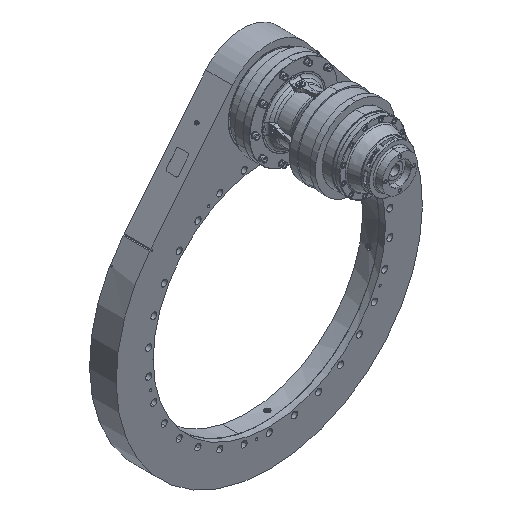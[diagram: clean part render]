
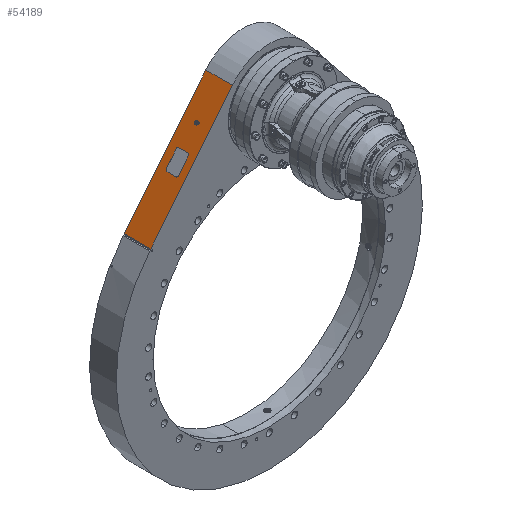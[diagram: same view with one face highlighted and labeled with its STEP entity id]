
A CAD part, isometric view. The second image highlights one B-rep face of the part: STEP entity #54189.
In plain terms, the highlighted planar face has unit normal (-0.777, 0, 0.629).
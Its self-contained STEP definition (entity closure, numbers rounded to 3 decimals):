
#8298=DIRECTION('',(0.629,0.,0.777));
#8299=VECTOR('',#8298,478.975);
#8300=CARTESIAN_POINT('',(-437.332,0.,357.735));
#8301=LINE('',#8300,#8299);
#9044=DIRECTION('',(0.629,0.,0.777));
#9045=VECTOR('',#9044,478.975);
#9046=CARTESIAN_POINT('',(-437.332,98.,357.735));
#9047=LINE('',#9046,#9045);
#18446=DIRECTION('',(0.,1.,0.));
#18447=VECTOR('',#18446,98.);
#18448=CARTESIAN_POINT('',(-136.041,0.,730.081));
#18449=LINE('',#18448,#18447);
#18453=DIRECTION('',(0.,-1.,0.));
#18454=VECTOR('',#18453,98.);
#18455=CARTESIAN_POINT('',(-437.332,98.,357.735));
#18456=LINE('',#18455,#18454);
#18460=DIRECTION('',(0.145,0.973,0.179));
#18461=VECTOR('',#18460,6.351);
#18462=CARTESIAN_POINT('',(-216.151,41.644,
631.078));
#18463=LINE('',#18462,#18461);
#18467=DIRECTION('',(-0.458,0.686,-0.566));
#18468=VECTOR('',#18467,6.351);
#18469=CARTESIAN_POINT('',(-215.231,47.824,
632.215));
#18470=LINE('',#18469,#18468);
#18474=DIRECTION('',(-0.603,-0.287,-0.745));
#18475=VECTOR('',#18474,6.351);
#18476=CARTESIAN_POINT('',(-218.138,52.18,
628.622));
#18477=LINE('',#18476,#18475);
#18481=DIRECTION('',(-0.145,-0.973,-0.179));
#18482=VECTOR('',#18481,6.351);
#18483=CARTESIAN_POINT('',(-221.965,50.356,
623.893));
#18484=LINE('',#18483,#18482);
#18488=DIRECTION('',(0.458,-0.686,0.566));
#18489=VECTOR('',#18488,6.351);
#18490=CARTESIAN_POINT('',(-222.885,44.176,
622.757));
#18491=LINE('',#18490,#18489);
#18495=DIRECTION('',(0.603,0.287,0.745));
#18496=VECTOR('',#18495,6.351);
#18497=CARTESIAN_POINT('',(-219.978,39.82,
626.349));
#18498=LINE('',#18497,#18496);
#18502=CARTESIAN_POINT('',(-309.639,64.,515.543));
#18503=DIRECTION('',(-0.777,0.,0.629));
#18504=DIRECTION('',(0.,1.,0.));
#18505=AXIS2_PLACEMENT_3D('',#18502,#18503,#18504);
#18510=DIRECTION('',(0.,1.,0.));
#18511=VECTOR('',#18510,33.);
#18512=CARTESIAN_POINT('',(-313.413,31.,510.879));
#18513=LINE('',#18512,#18511);
#18517=CARTESIAN_POINT('',(-309.639,31.,515.543));
#18518=DIRECTION('',(-0.777,0.,0.629));
#18519=DIRECTION('',(-0.629,0.,
-0.777));
#18520=AXIS2_PLACEMENT_3D('',#18517,#18518,#18519);
#18525=DIRECTION('',(-0.629,0.,-0.777));
#18526=VECTOR('',#18525,58.);
#18527=CARTESIAN_POINT('',(-273.155,25.,560.631));
#18528=LINE('',#18527,#18526);
#18532=CARTESIAN_POINT('',(-273.155,31.,560.631));
#18533=DIRECTION('',(-0.777,0.,0.629));
#18534=DIRECTION('',(0.,-1.,0.));
#18535=AXIS2_PLACEMENT_3D('',#18532,#18533,#18534);
#18540=DIRECTION('',(0.,-1.,0.));
#18541=VECTOR('',#18540,33.);
#18542=CARTESIAN_POINT('',(-269.381,64.,565.296));
#18543=LINE('',#18542,#18541);
#18547=CARTESIAN_POINT('',(-273.155,64.,560.631));
#18548=DIRECTION('',(-0.777,0.,0.629));
#18549=DIRECTION('',(0.629,0.,0.777));
#18550=AXIS2_PLACEMENT_3D('',#18547,#18548,#18549);
#18555=DIRECTION('',(0.629,0.,0.777));
#18556=VECTOR('',#18555,58.);
#18557=CARTESIAN_POINT('',(-309.639,70.,515.543));
#18558=LINE('',#18557,#18556);
#28655=CARTESIAN_POINT('',(-136.041,0.,730.081));
#28657=VERTEX_POINT('',#28655);
#28659=CARTESIAN_POINT('',(-136.041,98.,730.081));
#28661=VERTEX_POINT('',#28659);
#28667=CARTESIAN_POINT('',(-437.332,98.,357.735));
#28668=CARTESIAN_POINT('',(-437.332,0.,357.735));
#28669=VERTEX_POINT('',#28667);
#28670=VERTEX_POINT('',#28668);
#30181=CARTESIAN_POINT('',(-216.151,41.644,
631.078));
#30182=CARTESIAN_POINT('',(-215.231,47.824,
632.215));
#30183=VERTEX_POINT('',#30181);
#30184=VERTEX_POINT('',#30182);
#30185=CARTESIAN_POINT('',(-222.885,44.176,
622.757));
#30186=CARTESIAN_POINT('',(-219.978,39.82,
626.349));
#30187=VERTEX_POINT('',#30185);
#30188=VERTEX_POINT('',#30186);
#30189=CARTESIAN_POINT('',(-218.138,52.18,
628.622));
#30190=CARTESIAN_POINT('',(-221.965,50.356,
623.893));
#30191=VERTEX_POINT('',#30189);
#30192=VERTEX_POINT('',#30190);
#30225=CARTESIAN_POINT('',(-309.639,70.,515.543));
#30226=CARTESIAN_POINT('',(-313.413,64.,510.879));
#30227=VERTEX_POINT('',#30225);
#30228=VERTEX_POINT('',#30226);
#30229=CARTESIAN_POINT('',(-313.413,31.,510.879));
#30230=VERTEX_POINT('',#30229);
#30231=CARTESIAN_POINT('',(-309.639,25.,515.543));
#30232=VERTEX_POINT('',#30231);
#30233=CARTESIAN_POINT('',(-273.155,25.,560.631));
#30234=VERTEX_POINT('',#30233);
#30235=CARTESIAN_POINT('',(-269.381,31.,565.296));
#30236=VERTEX_POINT('',#30235);
#30237=CARTESIAN_POINT('',(-269.381,64.,565.296));
#30238=VERTEX_POINT('',#30237);
#30239=CARTESIAN_POINT('',(-273.155,70.,560.631));
#30240=VERTEX_POINT('',#30239);
#54146=CARTESIAN_POINT('',(-439.219,0.,355.403));
#54147=DIRECTION('',(-0.777,0.,0.629));
#54148=DIRECTION('',(0.629,0.,0.777));
#54149=AXIS2_PLACEMENT_3D('',#54146,#54147,#54148);
#54150=PLANE('',#54149);
#54151=ORIENTED_EDGE('',*,*,#41967,.F.);
#54152=ORIENTED_EDGE('',*,*,#41993,.T.);
#54153=ORIENTED_EDGE('',*,*,#54132,.F.);
#54154=ORIENTED_EDGE('',*,*,#41674,.F.);
#54155=EDGE_LOOP('',(#54151,#54152,#54153,#54154));
#54156=FACE_OUTER_BOUND('',#54155,.F.);
#54158=ORIENTED_EDGE('',*,*,#54157,.T.);
#54160=ORIENTED_EDGE('',*,*,#54159,.T.);
#54162=ORIENTED_EDGE('',*,*,#54161,.T.);
#54164=ORIENTED_EDGE('',*,*,#54163,.T.);
#54166=ORIENTED_EDGE('',*,*,#54165,.T.);
#54168=ORIENTED_EDGE('',*,*,#54167,.T.);
#54169=EDGE_LOOP('',(#54158,#54160,#54162,#54164,#54166,#54168));
#54170=FACE_BOUND('',#54169,.F.);
#54172=ORIENTED_EDGE('',*,*,#54171,.T.);
#54174=ORIENTED_EDGE('',*,*,#54173,.F.);
#54176=ORIENTED_EDGE('',*,*,#54175,.T.);
#54178=ORIENTED_EDGE('',*,*,#54177,.F.);
#54180=ORIENTED_EDGE('',*,*,#54179,.T.);
#54182=ORIENTED_EDGE('',*,*,#54181,.F.);
#54184=ORIENTED_EDGE('',*,*,#54183,.T.);
#54186=ORIENTED_EDGE('',*,*,#54185,.F.);
#54187=EDGE_LOOP('',(#54172,#54174,#54176,#54178,#54180,#54182,#54184,#54186));
#54188=FACE_BOUND('',#54187,.F.);
#18506=CIRCLE('',#18505,6.);
#18521=CIRCLE('',#18520,6.);
#18536=CIRCLE('',#18535,6.);
#18551=CIRCLE('',#18550,6.);
#41674=EDGE_CURVE('',#28670,#28657,#8301,.T.);
#41967=EDGE_CURVE('',#28669,#28670,#18456,.T.);
#41993=EDGE_CURVE('',#28669,#28661,#9047,.T.);
#54132=EDGE_CURVE('',#28657,#28661,#18449,.T.);
#54157=EDGE_CURVE('',#30183,#30184,#18463,.T.);
#54159=EDGE_CURVE('',#30184,#30191,#18470,.T.);
#54161=EDGE_CURVE('',#30191,#30192,#18477,.T.);
#54163=EDGE_CURVE('',#30192,#30187,#18484,.T.);
#54165=EDGE_CURVE('',#30187,#30188,#18491,.T.);
#54167=EDGE_CURVE('',#30188,#30183,#18498,.T.);
#54171=EDGE_CURVE('',#30227,#30228,#18506,.T.);
#54173=EDGE_CURVE('',#30230,#30228,#18513,.T.);
#54175=EDGE_CURVE('',#30230,#30232,#18521,.T.);
#54177=EDGE_CURVE('',#30234,#30232,#18528,.T.);
#54179=EDGE_CURVE('',#30234,#30236,#18536,.T.);
#54181=EDGE_CURVE('',#30238,#30236,#18543,.T.);
#54183=EDGE_CURVE('',#30238,#30240,#18551,.T.);
#54185=EDGE_CURVE('',#30227,#30240,#18558,.T.);
#54189=ADVANCED_FACE('',(#54156,#54170,#54188),#54150,.T.);
